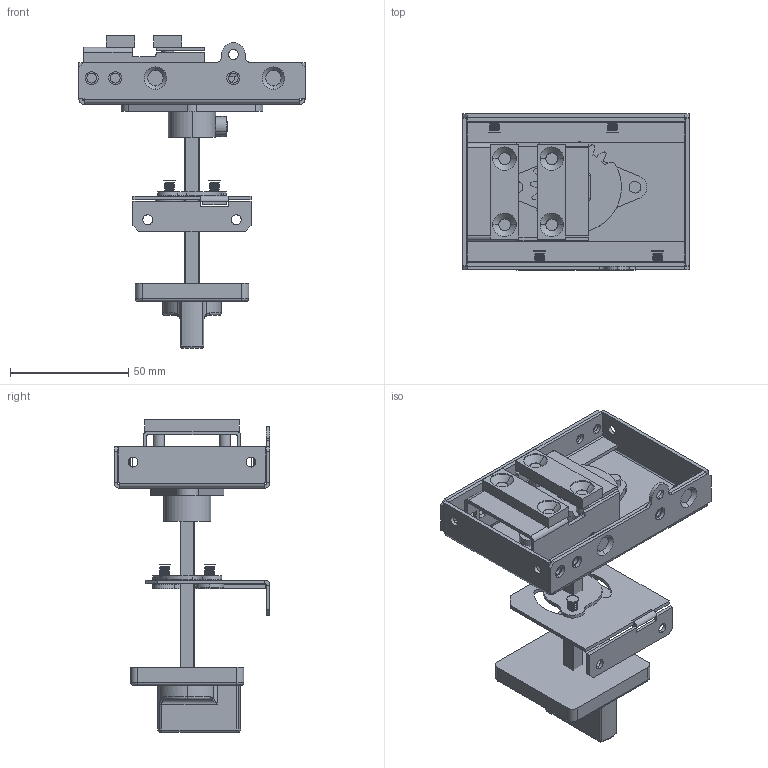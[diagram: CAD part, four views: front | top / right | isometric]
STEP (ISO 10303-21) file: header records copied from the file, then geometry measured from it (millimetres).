
FILE_DESCRIPTION(('CAx-IF Rec.Pracs.---Model Styling and Organization---1.2---2011-12-15','CAx-IF Rec.Pracs.---Geometric and Assembly Validation Properties---4.1---2014-06-16','CAx-IF Rec.Pracs.---PMI Polyline Presentation---2.0---2013-05-24'),'2;1');
FILE_NAME('R5M2WFBM1.stp','2021-05-05T12:54:25+03:00',(''),(''),'STEP Interface 4.4 by CT CoreTechnologie','3D_Evolution4.4 by CT CoreTechnologie','');
FILE_SCHEMA(('AUTOMOTIVE_DESIGN { 1 0 10303 214 1 1 1 1 }'));
Length unit declared in the file: millimetre
Products named in the file (21): R5M2WFBM1; RB.1418.00.00.0 ÑÁ; RB.1418.00.02.0_-00; Ì4-GOST R 50273-92 (DIN 985)_thread; RB.1418.00.07.0_-00; RB.1418.00.06.0; M5x12 DIN 912_stright; M5x12-DIN 7500M ISR_stright; RB.1418.00.01.0_-00; RB.1418.00.05.0_-01; M5x12-DIN7500C_stright; RB.1418.00.04.0_DIN - Spur gear 1.75M 20T 20PA 3FW ---S12A75H50L16N; RB.1418.00.05.0_-00; RB.1418.00.03.0_-00; AZ0101 Rotary handle DKC 6x6; RB.1419.00.00.0 ÑÁ; RB.1419.00.03.0_-00; RB.1419.00.02.0_-00; RB.1419.00.01.0_-00; 6-GOST 11371-78 (DIN 125) PA 6.6_6-GOST 11371-78 (DIN 125) PA 6.6; Driving shaft 6õ6 L185
Assembly tree (31 placements, depth 3):
  R5M2WFBM1
    RB.1418.00.00.0 ÑÁ
      RB.1418.00.02.0_-00  x2
      Ì4-GOST R 50273-92 (DIN 985)_thread  x4
      RB.1418.00.07.0_-00  x2
      RB.1418.00.06.0
      M5x12 DIN 912_stright
      M5x12-DIN 7500M ISR_stright  x4
      RB.1418.00.01.0_-00
      RB.1418.00.05.0_-01
      M5x12-DIN7500C_stright  x2
      RB.1418.00.04.0_DIN - Spur gear 1.75M 20T 20PA 3FW ---S12A75H50L16N
      RB.1418.00.05.0_-00
      RB.1418.00.03.0_-00
    AZ0101 Rotary handle DKC 6x6
    RB.1419.00.00.0 ÑÁ
      RB.1419.00.03.0_-00
      Ì4-GOST R 50273-92 (DIN 985)_thread  x2
      RB.1419.00.02.0_-00
      RB.1419.00.01.0_-00
      6-GOST 11371-78 (DIN 125) PA 6.6_6-GOST 11371-78 (DIN 125) PA 6.6
    Driving shaft 6õ6 L185
Bounding box: 96 x 66 x 132.5 mm (x, y, z)
Surface area: 77868.5 mm2 (no closed solid volume)
Topology: 0 solids, 40 shells, 669 faces, 1687 edges, 1093 vertices
Faces by surface type: cylinder 309, plane 292, bspline 68
Entity records: 18362 total; most frequent: CARTESIAN_POINT 4279, DIRECTION 2808, ORIENTED_EDGE 2650, EDGE_CURVE 1329, AXIS2_PLACEMENT_3D 1001, VERTEX_POINT 859, VECTOR 806, LINE 806
